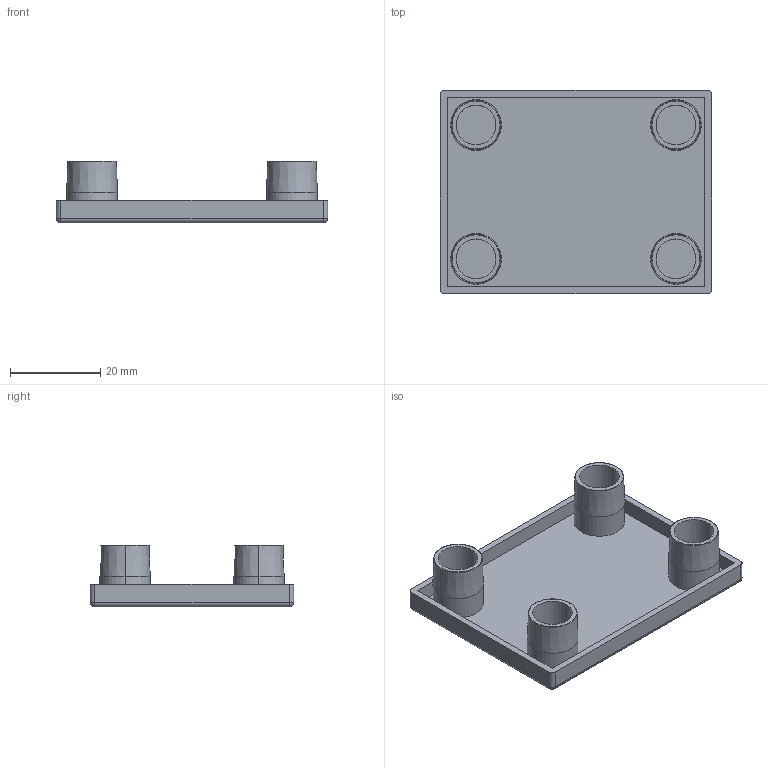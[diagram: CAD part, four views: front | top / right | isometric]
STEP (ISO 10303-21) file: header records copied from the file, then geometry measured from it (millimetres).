
FILE_DESCRIPTION (( 'STEP AP203' ), '1' );
FILE_NAME ('DEC4560.STEP', '2022-06-24T02:50:05', ( '' ), ( '' ), 'SwSTEP 2.0', 'SolidWorks 2017', '' );
FILE_SCHEMA (( 'CONFIG_CONTROL_DESIGN' ));
Length unit declared in the file: millimetre
Products named in the file (1): DEC4560
Bounding box: 60 x 45 x 13.7 mm (x, y, z)
Volume: 6814.4 mm3; surface area: 10058.7 mm2
Topology: 1 solids, 1 shells, 63 faces, 132 edges, 76 vertices
Faces by surface type: cylinder 24, plane 19, torus 8, cone 8, sphere 4
Entity records: 1727 total; most frequent: DIRECTION 328, CARTESIAN_POINT 268, ORIENTED_EDGE 256, AXIS2_PLACEMENT_3D 136, EDGE_CURVE 128, VERTEX_POINT 76, EDGE_LOOP 72, CIRCLE 72
